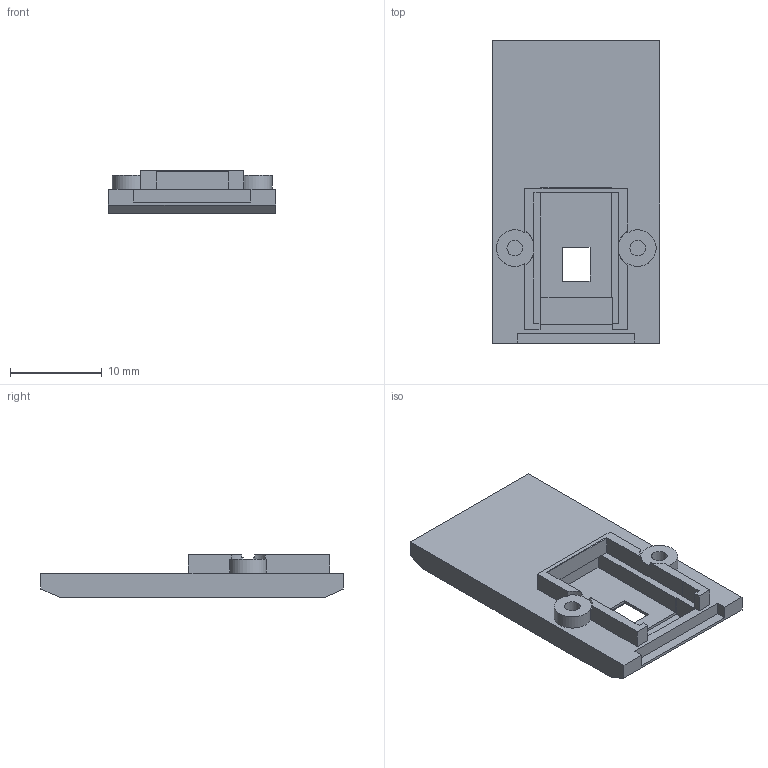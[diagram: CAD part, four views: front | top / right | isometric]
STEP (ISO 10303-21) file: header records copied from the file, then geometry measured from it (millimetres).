
FILE_DESCRIPTION(('Open CASCADE Model'),'2;1');
FILE_NAME('Open CASCADE Shape Model','2026-10-01T12:00:21',('Author'),( 'Open CASCADE'),'Open CASCADE STEP processor 7.9','Open CASCADE 7.9' ,'Unknown');
FILE_SCHEMA(('AUTOMOTIVE_DESIGN { 1 0 10303 214 1 1 1 1 }'));
Length unit declared in the file: millimetre
Products named in the file (1): Open CASCADE STEP translator 7.9 4
Bounding box: 18.22 x 32.95 x 4.62 mm (x, y, z)
Volume: 1353 mm3; surface area: 1761.4 mm2
Topology: 1 solids, 1 shells, 162 faces, 428 edges, 271 vertices
Faces by surface type: plane 154, cylinder 8
Full cylindrical faces by diameter (mm): 1.7 x2
Entity records: 10440 total; most frequent: CARTESIAN_POINT 1746, DIRECTION 1612, LINE 1228, VECTOR 1228, ORIENTED_EDGE 856, PCURVE 856, DEFINITIONAL_REPRESENTATION 856, EDGE_CURVE 428
